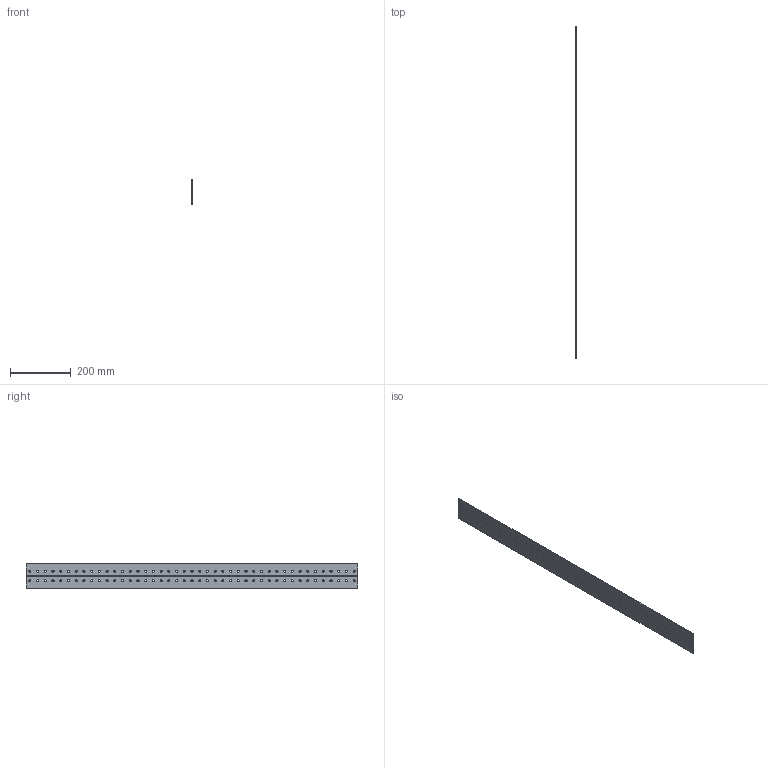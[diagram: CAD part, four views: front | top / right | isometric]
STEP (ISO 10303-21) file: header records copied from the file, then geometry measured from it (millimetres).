
FILE_DESCRIPTION(/* description */ ('Alibre Inc.'),/* implementation_level */ '2;1');
FILE_NAME(/* name */ 'export-8DBEA361-67A4-40D1-AD52-839F1CE02B62',/* time_stamp */ '2022-04-19T13:26:56-05:00',/* author */ (''),/* organization */ (''),/* preprocessor_version */ 'ST-DEVELOPER v17',/* originating_system */ 'Alibre',/* authorisation */ '');
FILE_SCHEMA (('AUTOMOTIVE_DESIGN'));
Length unit declared in the file: centimetre
Bounding box: 1.88 x 1092.2 x 80.23 mm (x, y, z)
Volume: 158233.3 mm3; surface area: 176401.1 mm2
Topology: 1 solids, 1 shells, 100 faces, 286 edges, 188 vertices
Faces by surface type: cylinder 86, plane 14
Full cylindrical faces by diameter (mm): 7.137 x86
Entity records: 3273 total; most frequent: DIRECTION 558, CARTESIAN_POINT 488, ORIENTED_EDGE 400, EDGE_LOOP 358, FACE_BOUND 358, AXIS2_PLACEMENT_3D 272, EDGE_CURVE 200, VERTEX_POINT 188
